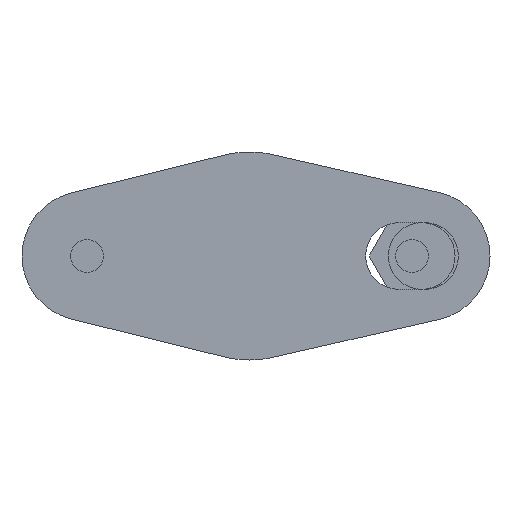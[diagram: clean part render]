
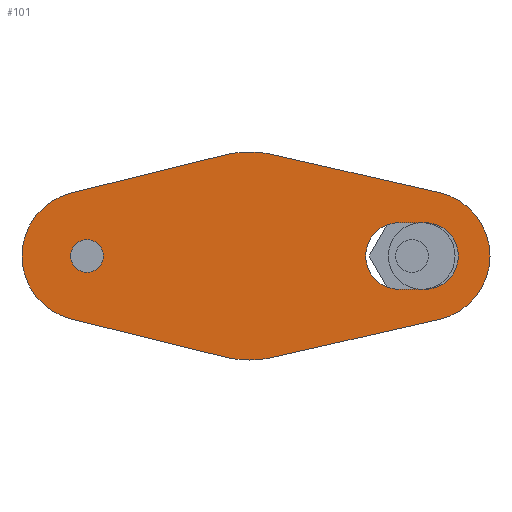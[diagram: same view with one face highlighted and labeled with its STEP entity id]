
A CAD part, front view. The second image highlights one B-rep face of the part: STEP entity #101.
In plain terms, the highlighted planar face has unit normal (0, -1, 0).
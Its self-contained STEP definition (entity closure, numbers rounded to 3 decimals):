
#101=ADVANCED_FACE('',(#195,#196,#197),#198,.F.);
#195=FACE_OUTER_BOUND('',#351,.T.);
#196=FACE_BOUND('',#352,.T.);
#197=FACE_BOUND('',#353,.T.);
#198=PLANE('',#354);
#351=EDGE_LOOP('',(#608,#609,#610,#611,#612,#613,#614,#615,#616,#617));
#352=EDGE_LOOP('',(#618,#619));
#353=EDGE_LOOP('',(#620,#621,#622,#623));
#354=AXIS2_PLACEMENT_3D('',#624,#625,#626);
#608=ORIENTED_EDGE('',*,*,#1027,.F.);
#609=ORIENTED_EDGE('',*,*,#1078,.F.);
#610=ORIENTED_EDGE('',*,*,#1079,.F.);
#611=ORIENTED_EDGE('',*,*,#1080,.F.);
#612=ORIENTED_EDGE('',*,*,#1021,.F.);
#613=ORIENTED_EDGE('',*,*,#1081,.F.);
#614=ORIENTED_EDGE('',*,*,#1082,.F.);
#615=ORIENTED_EDGE('',*,*,#1083,.F.);
#616=ORIENTED_EDGE('',*,*,#1084,.F.);
#617=ORIENTED_EDGE('',*,*,#1064,.F.);
#618=ORIENTED_EDGE('',*,*,#1056,.F.);
#619=ORIENTED_EDGE('',*,*,#1046,.F.);
#620=ORIENTED_EDGE('',*,*,#1085,.T.);
#621=ORIENTED_EDGE('',*,*,#1086,.T.);
#622=ORIENTED_EDGE('',*,*,#1087,.T.);
#623=ORIENTED_EDGE('',*,*,#1088,.T.);
#624=CARTESIAN_POINT('',(25.0,0.0,0.0));
#625=DIRECTION('',(0.0,1.0,0.0));
#626=DIRECTION('',(1.0,0.0,-0.0));
#1021=EDGE_CURVE('',#1188,#1191,#1192,.T.);
#1027=EDGE_CURVE('',#1201,#1197,#1203,.T.);
#1046=EDGE_CURVE('',#1235,#1238,#1239,.T.);
#1056=EDGE_CURVE('',#1238,#1235,#1254,.T.);
#1064=EDGE_CURVE('',#1197,#1262,#1263,.T.);
#1078=EDGE_CURVE('',#1287,#1201,#1288,.T.);
#1079=EDGE_CURVE('',#1289,#1287,#1290,.T.);
#1080=EDGE_CURVE('',#1191,#1289,#1291,.T.);
#1081=EDGE_CURVE('',#1292,#1188,#1293,.T.);
#1082=EDGE_CURVE('',#1294,#1292,#1295,.T.);
#1083=EDGE_CURVE('',#1296,#1294,#1297,.T.);
#1084=EDGE_CURVE('',#1262,#1296,#1298,.T.);
#1085=EDGE_CURVE('',#1299,#1300,#1301,.T.);
#1086=EDGE_CURVE('',#1300,#1302,#1303,.T.);
#1087=EDGE_CURVE('',#1302,#1304,#1305,.T.);
#1088=EDGE_CURVE('',#1304,#1299,#1306,.T.);
#1188=VERTEX_POINT('',#1466);
#1191=VERTEX_POINT('',#1470);
#1192=CIRCLE('',#1471,16.0);
#1197=VERTEX_POINT('',#1477);
#1201=VERTEX_POINT('',#1482);
#1203=CIRCLE('',#1485,16.0);
#1235=VERTEX_POINT('',#1527);
#1238=VERTEX_POINT('',#1531);
#1239=CIRCLE('',#1532,2.5);
#1254=CIRCLE('',#1550,2.5);
#1262=VERTEX_POINT('',#1558);
#1263=CIRCLE('',#1559,16.0);
#1287=VERTEX_POINT('',#1590);
#1288=LINE('',#1591,#1592);
#1289=VERTEX_POINT('',#1593);
#1290=CIRCLE('',#1594,10.0);
#1291=LINE('',#1595,#1596);
#1292=VERTEX_POINT('',#1597);
#1293=CIRCLE('',#1598,16.0);
#1294=VERTEX_POINT('',#1599);
#1295=LINE('',#1600,#1601);
#1296=VERTEX_POINT('',#1602);
#1297=CIRCLE('',#1603,10.0);
#1298=LINE('',#1604,#1605);
#1299=VERTEX_POINT('',#1606);
#1300=VERTEX_POINT('',#1607);
#1301=CIRCLE('',#1608,5.125);
#1302=VERTEX_POINT('',#1609);
#1303=LINE('',#1610,#1611);
#1304=VERTEX_POINT('',#1612);
#1305=CIRCLE('',#1613,5.125);
#1306=LINE('',#1614,#1615);
#1466=CARTESIAN_POINT('',(25.0,0.0,16.0));
#1470=CARTESIAN_POINT('',(28.556,0.0,15.6));
#1471=AXIS2_PLACEMENT_3D('',#1863,#1864,#1865);
#1477=CARTESIAN_POINT('',(25.0,0.0,-16.0));
#1482=CARTESIAN_POINT('',(28.556,0.0,-15.6));
#1485=AXIS2_PLACEMENT_3D('',#1875,#1876,#1877);
#1527=CARTESIAN_POINT('',(0.,0.0,-2.5));
#1531=CARTESIAN_POINT('',(0.,0.0,2.5));
#1532=AXIS2_PLACEMENT_3D('',#1910,#1911,#1912);
#1550=AXIS2_PLACEMENT_3D('',#1934,#1935,#1936);
#1558=CARTESIAN_POINT('',(21.16,0.0,-15.532));
#1559=AXIS2_PLACEMENT_3D('',#1958,#1959,#1960);
#1590=CARTESIAN_POINT('',(54.222,0.0,-9.75));
#1591=CARTESIAN_POINT('',(28.556,0.0,-15.6));
#1592=VECTOR('',#1986,1000.0);
#1593=CARTESIAN_POINT('',(54.222,0.0,9.75));
#1594=AXIS2_PLACEMENT_3D('',#1987,#1988,#1989);
#1595=CARTESIAN_POINT('',(28.556,0.0,15.6));
#1596=VECTOR('',#1990,1000.0);
#1597=CARTESIAN_POINT('',(21.16,0.0,15.532));
#1598=AXIS2_PLACEMENT_3D('',#1991,#1992,#1993);
#1599=CARTESIAN_POINT('',(-2.4,0.0,9.708));
#1600=CARTESIAN_POINT('',(21.16,0.0,15.532));
#1601=VECTOR('',#1994,1000.0);
#1602=CARTESIAN_POINT('',(-2.4,0.0,-9.708));
#1603=AXIS2_PLACEMENT_3D('',#1995,#1996,#1997);
#1604=CARTESIAN_POINT('',(21.16,0.0,-15.532));
#1605=VECTOR('',#1998,1000.0);
#1606=CARTESIAN_POINT('',(48.0,0.0,-5.125));
#1607=CARTESIAN_POINT('',(48.0,0.0,5.125));
#1608=AXIS2_PLACEMENT_3D('',#1999,#2000,#2001);
#1609=CARTESIAN_POINT('',(52.0,0.0,5.125));
#1610=CARTESIAN_POINT('',(48.0,0.0,5.125));
#1611=VECTOR('',#2002,1000.0);
#1612=CARTESIAN_POINT('',(52.0,0.0,-5.125));
#1613=AXIS2_PLACEMENT_3D('',#2003,#2004,#2005);
#1614=CARTESIAN_POINT('',(48.0,0.0,-5.125));
#1615=VECTOR('',#2006,1000.0);
#1863=CARTESIAN_POINT('',(25.0,0.0,0.0));
#1864=DIRECTION('',(0.0,1.0,0.0));
#1865=DIRECTION('',(0.0,0.0,1.0));
#1875=CARTESIAN_POINT('',(25.0,0.0,0.0));
#1876=DIRECTION('',(0.0,1.0,0.0));
#1877=DIRECTION('',(0.0,0.0,1.0));
#1910=CARTESIAN_POINT('',(0.0,0.0,0.0));
#1911=DIRECTION('',(0.0,-1.0,0.0));
#1912=DIRECTION('',(0.0,0.0,1.0));
#1934=CARTESIAN_POINT('',(0.0,0.0,0.0));
#1935=DIRECTION('',(0.0,-1.0,0.0));
#1936=DIRECTION('',(0.0,0.0,1.0));
#1958=CARTESIAN_POINT('',(25.0,0.0,0.0));
#1959=DIRECTION('',(0.0,1.0,0.0));
#1960=DIRECTION('',(0.0,0.0,1.0));
#1986=DIRECTION('',(-0.975,-0.0,-0.222));
#1987=CARTESIAN_POINT('',(52.0,0.0,0.0));
#1988=DIRECTION('',(0.0,1.0,0.0));
#1989=DIRECTION('',(0.0,0.0,1.0));
#1990=DIRECTION('',(0.975,0.0,-0.222));
#1991=CARTESIAN_POINT('',(25.0,0.0,0.0));
#1992=DIRECTION('',(0.0,1.0,0.0));
#1993=DIRECTION('',(0.0,0.0,1.0));
#1994=DIRECTION('',(0.971,-0.0,0.24));
#1995=CARTESIAN_POINT('',(0.0,0.0,0.0));
#1996=DIRECTION('',(0.0,1.0,0.0));
#1997=DIRECTION('',(0.0,0.0,1.0));
#1998=DIRECTION('',(-0.971,0.0,0.24));
#1999=CARTESIAN_POINT('',(48.0,0.0,0.0));
#2000=DIRECTION('',(0.0,1.0,0.0));
#2001=DIRECTION('',(0.0,0.0,1.0));
#2002=DIRECTION('',(1.0,0.0,0.0));
#2003=CARTESIAN_POINT('',(52.0,0.0,0.0));
#2004=DIRECTION('',(0.0,1.0,0.0));
#2005=DIRECTION('',(0.0,0.0,1.0));
#2006=DIRECTION('',(-1.0,-0.0,-0.0));
